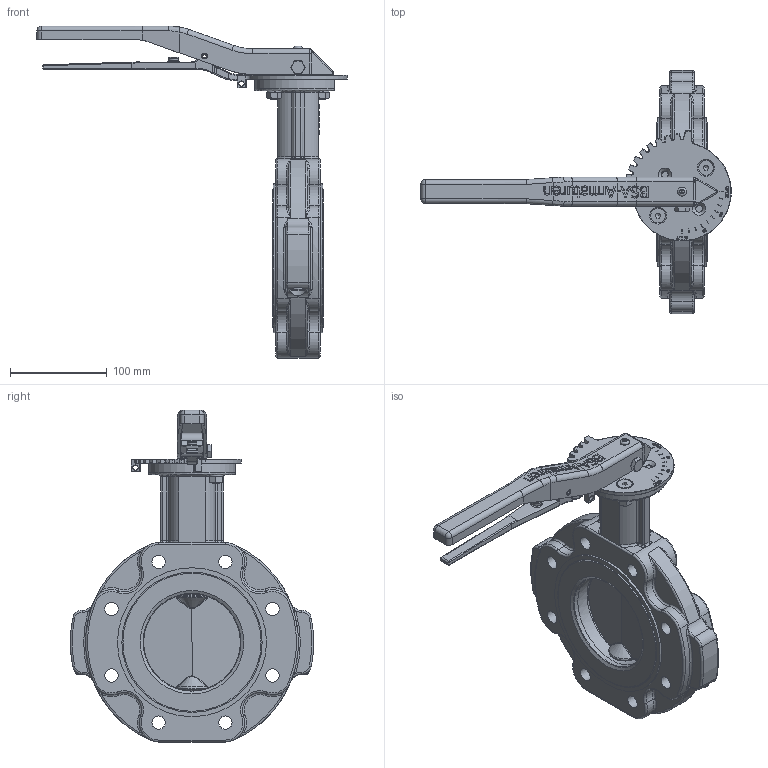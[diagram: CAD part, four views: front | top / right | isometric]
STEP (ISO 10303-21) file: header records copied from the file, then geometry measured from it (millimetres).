
FILE_DESCRIPTION((''),'2;1');
FILE_NAME('K:\Inventor\1 Artikel\10) Absperrklappen\10a) manuell\Chemvalve\844-GGG, CST-L\844-GGG, DN100\844-GGG, DN100, 3D\844-GGG, DN100, PN10-16, HH, 3D.stp','2019-08-13T13:07:22',('claudia'),(''),'Autodesk Inventor 2013','Autodesk Inventor 2013','');
FILE_SCHEMA(('AUTOMOTIVE_DESIGN { 1 0 10303 214 1 1 1 1 }'));
Length unit declared in the file: millimetre
Products named in the file (1): Bauteil31
Bounding box: 320.82 x 251.44 x 343.25 mm (x, y, z)
Volume: 1710346.4 mm3; surface area: 241826.7 mm2
Topology: 1 solids, 3 shells, 1908 faces, 4942 edges, 3108 vertices
Faces by surface type: plane 785, bspline 529, cylinder 319, torus 178, cone 61, sphere 36
Full cylindrical faces by diameter (mm): 2.65 x4, 4.134 x1, 5 x1, 5.5 x2, 5.8 x1, 6 x2, 6.4 x1, 7 x4, 8 x2, 9 x4, 9.5 x1, 10 x1, 11.63 x1, 13.835 x8, 15.24 x2, 16 x2, 18 x2, 20 x1, 23 x1, 30 x1, 38 x1, 56 x1, 100.1 x2, 142.8 x2, 145 x2, 154 x2
Entity records: 67534 total; most frequent: CARTESIAN_POINT 23261, ORIENTED_EDGE 9506, DIRECTION 7470, EDGE_CURVE 4753, VERTEX_POINT 3061, AXIS2_PLACEMENT_3D 2527, VECTOR 2416, LINE 2416
